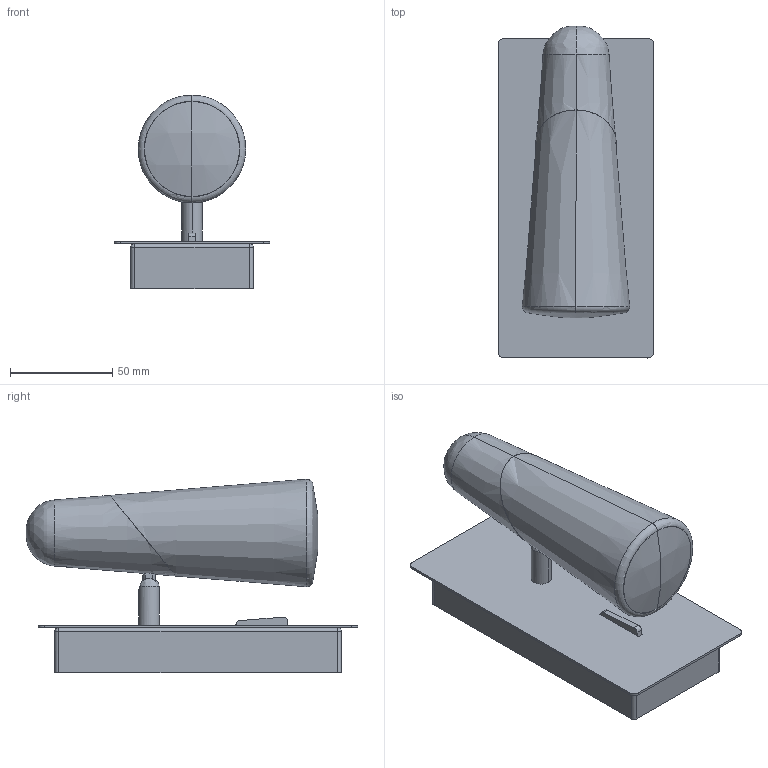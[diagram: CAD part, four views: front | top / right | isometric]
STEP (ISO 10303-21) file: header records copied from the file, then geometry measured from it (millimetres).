
FILE_DESCRIPTION(/* description */ (''),/* implementation_level */ '2;1');
FILE_NAME(/* name */ 'C:\Users\FrancoSartori\Documents\FARO\01_En Proceso\00_LAO\03_Publicación\29040.stp',/* time_stamp */ '2021-10-04T10:22:59+02:00',/* author */ ('FrancoSartori'),/* organization */ (''),/* preprocessor_version */ 'ST-DEVELOPER v18.1',/* originating_system */ 'AutoCAD Mechanical',/* authorisation */ '');
FILE_SCHEMA (('AUTOMOTIVE_DESIGN { 1 0 10303 214 3 1 1 }'));
Length unit declared in the file: millimetre
Products named in the file (2): Product; 29039_ 29040_ - structure-593391-Export
Assembly tree (1 placements, depth 2):
  Product
    29039_ 29040_ - structure-593391-Export
Bounding box: 76 x 161.94 x 94.44 mm (x, y, z)
Volume: 220464 mm3; surface area: 91727.4 mm2
Topology: 8 solids, 9 shells, 145 faces, 331 edges, 195 vertices
Faces by surface type: plane 74, cylinder 55, bspline 8, cone 4, sphere 2, torus 2
Entity records: 4983 total; most frequent: CARTESIAN_POINT 1759, DIRECTION 648, ORIENTED_EDGE 642, EDGE_CURVE 327, AXIS2_PLACEMENT_3D 227, VERTEX_POINT 195, LINE 194, VECTOR 194
